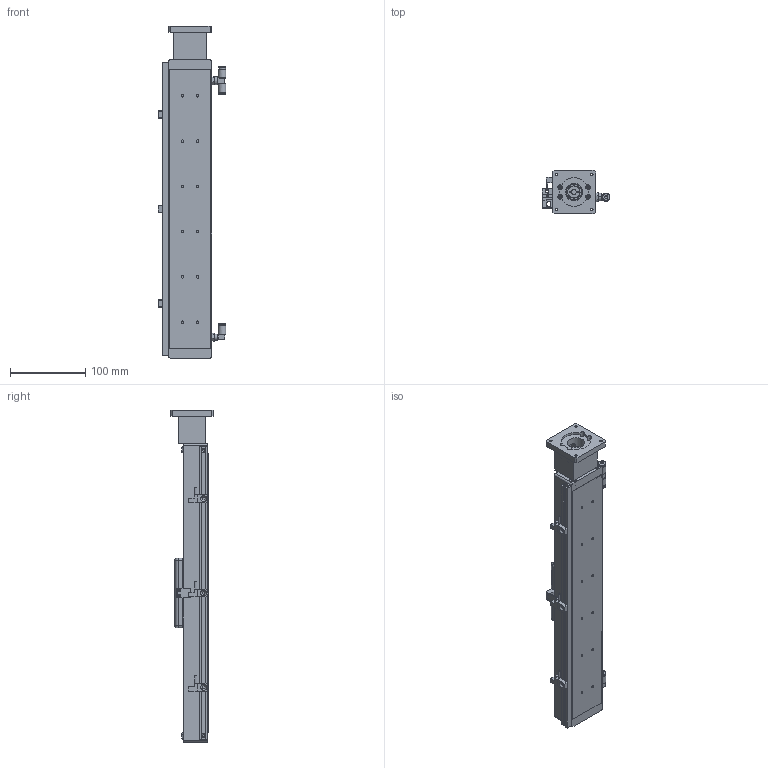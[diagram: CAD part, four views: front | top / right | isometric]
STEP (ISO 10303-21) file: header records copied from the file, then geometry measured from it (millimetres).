
FILE_DESCRIPTION((''),'2;1');
FILE_NAME('E:\catalogue and flyer\actuator catalogue 2015\dwg fr wg\UIA058CR7DC\UIA058CR7DC change cover strip 09May16\UIA058CR7DC-stp file 09May16\UIA058CR7DC-250-R0803-M23-P13-C10.stp','2016-05-09T14:17:40',('h029'),(''),'Autodesk Inventor 11','Autodesk Inventor 11','');
FILE_SCHEMA(('AUTOMOTIVE_DESIGN { 1 0 10303 214 1 1 1 1 }'));
Length unit declared in the file: millimetre
Products named in the file (14): UIA058CR7DC-250; UIA058CR7DC-body; GWL4-M5; GWT4-M5; Sensor Rail; Sensor Bracket; PM-L24; 19-100 0110 M23 Motor House; carriage-new; 19-100 0071 sensor flag; SOH-16C; SOH-16C-3; SOH-16C-2; SOH-16C-1
Assembly tree (17 placements, depth 3):
  UIA058CR7DC-250
    UIA058CR7DC-body
    GWL4-M5
    GWT4-M5
    Sensor Rail
    Sensor Bracket  x3
    PM-L24  x3
    19-100 0110 M23 Motor House
    carriage-new
    19-100 0071 sensor flag
    SOH-16C
      SOH-16C-3
      SOH-16C-2
      SOH-16C-1
Bounding box: 90.1 x 57 x 440 mm (x, y, z)
Volume: 895909.5 mm3; surface area: 147010.9 mm2
Topology: 16 solids, 16 shells, 693 faces, 1742 edges, 1132 vertices
Faces by surface type: plane 399, cylinder 139, bspline 137, cone 10, sphere 8
Full cylindrical faces by diameter (mm): 2.459 x4, 2.5 x5, 4 x2, 5 x5, 6 x4, 6.35 x1, 8.6 x2, 9 x2, 16 x3, 23 x1
Entity records: 18813 total; most frequent: CARTESIAN_POINT 4943, DIRECTION 2774, ORIENTED_EDGE 2644, EDGE_CURVE 1322, AXIS2_PLACEMENT_3D 965, VERTEX_POINT 909, VECTOR 844, LINE 844
